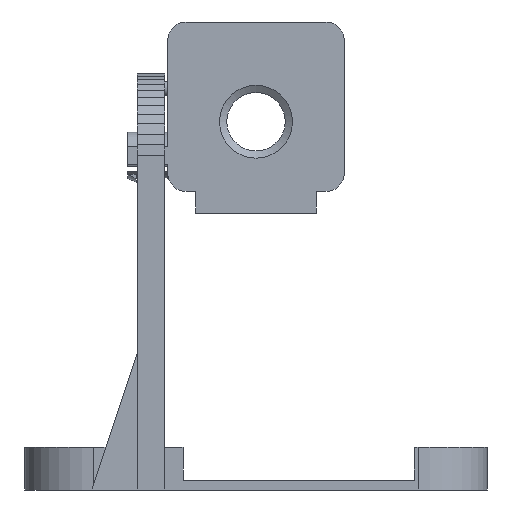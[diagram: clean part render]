
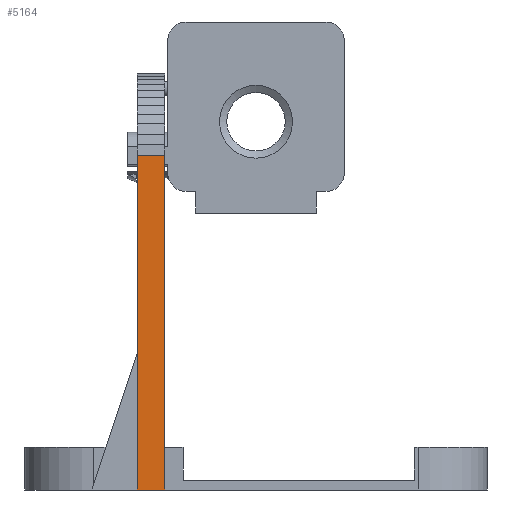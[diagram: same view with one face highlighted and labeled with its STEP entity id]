
A CAD part, left-side view. The second image highlights one B-rep face of the part: STEP entity #5164.
In plain terms, the highlighted planar face has unit normal (-1, 0, -0.016).
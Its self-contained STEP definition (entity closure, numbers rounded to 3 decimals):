
#66 = PLANE('',#67);
#67 = AXIS2_PLACEMENT_3D('',#68,#69,#70);
#68 = CARTESIAN_POINT('',(0.,0.,0.));
#69 = DIRECTION('',(0.,0.,1.));
#70 = DIRECTION('',(1.,0.,-0.));
#257 = PLANE('',#258);
#258 = AXIS2_PLACEMENT_3D('',#259,#260,#261);
#259 = CARTESIAN_POINT('',(-61.83,15.,32.564));
#260 = DIRECTION('',(0.,-1.,0.));
#261 = DIRECTION('',(1.,0.,0.));
#688 = PLANE('',#689);
#689 = AXIS2_PLACEMENT_3D('',#690,#691,#692);
#690 = CARTESIAN_POINT('',(-61.83,19.5,32.564));
#691 = DIRECTION('',(0.,-1.,0.));
#692 = DIRECTION('',(1.,0.,0.));
#785 = VERTEX_POINT('',#786);
#786 = CARTESIAN_POINT('',(-74.,19.5,0.));
#807 = EDGE_CURVE('',#785,#808,#810,.T.);
#808 = VERTEX_POINT('',#809);
#809 = CARTESIAN_POINT('',(-74.,15.,0.));
#810 = SURFACE_CURVE('',#811,(#815,#822),.PCURVE_S1.);
#811 = LINE('',#812,#813);
#812 = CARTESIAN_POINT('',(-74.,19.5,0.));
#813 = VECTOR('',#814,1.);
#814 = DIRECTION('',(0.,-1.,0.));
#815 = PCURVE('',#66,#816);
#816 = DEFINITIONAL_REPRESENTATION('',(#817),#821);
#817 = LINE('',#818,#819);
#818 = CARTESIAN_POINT('',(-74.,19.5));
#819 = VECTOR('',#820,1.);
#820 = DIRECTION('',(0.,-1.));
#821 = ( GEOMETRIC_REPRESENTATION_CONTEXT(2) 
PARAMETRIC_REPRESENTATION_CONTEXT() REPRESENTATION_CONTEXT('2D SPACE',''
  ) );
#822 = PCURVE('',#823,#828);
#823 = PLANE('',#824);
#824 = AXIS2_PLACEMENT_3D('',#825,#826,#827);
#825 = CARTESIAN_POINT('',(-74.9,19.5,55.));
#826 = DIRECTION('',(1.,0.,
    0.016));
#827 = DIRECTION('',(0.016,0.,
    -1.));
#828 = DEFINITIONAL_REPRESENTATION('',(#829),#833);
#829 = LINE('',#830,#831);
#830 = CARTESIAN_POINT('',(55.007,0.));
#831 = VECTOR('',#832,1.);
#832 = DIRECTION('',(0.,-1.));
#833 = ( GEOMETRIC_REPRESENTATION_CONTEXT(2) 
PARAMETRIC_REPRESENTATION_CONTEXT() REPRESENTATION_CONTEXT('2D SPACE',''
  ) );
#891 = VERTEX_POINT('',#892);
#892 = CARTESIAN_POINT('',(-74.9,15.,55.));
#906 = PLANE('',#907);
#907 = AXIS2_PLACEMENT_3D('',#908,#909,#910);
#908 = CARTESIAN_POINT('',(-74.785,19.5,56.762));
#909 = DIRECTION('',(0.998,0.,
    -0.065));
#910 = DIRECTION('',(-0.065,0.,
    -0.998));
#918 = EDGE_CURVE('',#891,#808,#919,.T.);
#919 = SURFACE_CURVE('',#920,(#924,#931),.PCURVE_S1.);
#920 = LINE('',#921,#922);
#921 = CARTESIAN_POINT('',(-74.9,15.,55.));
#922 = VECTOR('',#923,1.);
#923 = DIRECTION('',(0.016,0.,
    -1.));
#924 = PCURVE('',#257,#925);
#925 = DEFINITIONAL_REPRESENTATION('',(#926),#930);
#926 = LINE('',#927,#928);
#927 = CARTESIAN_POINT('',(-13.07,22.436));
#928 = VECTOR('',#929,1.);
#929 = DIRECTION('',(0.016,-1.));
#930 = ( GEOMETRIC_REPRESENTATION_CONTEXT(2) 
PARAMETRIC_REPRESENTATION_CONTEXT() REPRESENTATION_CONTEXT('2D SPACE',''
  ) );
#931 = PCURVE('',#823,#932);
#932 = DEFINITIONAL_REPRESENTATION('',(#933),#937);
#933 = LINE('',#934,#935);
#934 = CARTESIAN_POINT('',(0.,-4.5));
#935 = VECTOR('',#936,1.);
#936 = DIRECTION('',(1.,0.));
#937 = ( GEOMETRIC_REPRESENTATION_CONTEXT(2) 
PARAMETRIC_REPRESENTATION_CONTEXT() REPRESENTATION_CONTEXT('2D SPACE',''
  ) );
#3923 = VERTEX_POINT('',#3924);
#3924 = CARTESIAN_POINT('',(-74.9,19.5,55.));
#3945 = EDGE_CURVE('',#3923,#785,#3946,.T.);
#3946 = SURFACE_CURVE('',#3947,(#3951,#3958),.PCURVE_S1.);
#3947 = LINE('',#3948,#3949);
#3948 = CARTESIAN_POINT('',(-74.9,19.5,55.));
#3949 = VECTOR('',#3950,1.);
#3950 = DIRECTION('',(0.016,0.,
    -1.));
#3951 = PCURVE('',#688,#3952);
#3952 = DEFINITIONAL_REPRESENTATION('',(#3953),#3957);
#3953 = LINE('',#3954,#3955);
#3954 = CARTESIAN_POINT('',(-13.07,22.436));
#3955 = VECTOR('',#3956,1.);
#3956 = DIRECTION('',(0.016,-1.));
#3957 = ( GEOMETRIC_REPRESENTATION_CONTEXT(2) 
PARAMETRIC_REPRESENTATION_CONTEXT() REPRESENTATION_CONTEXT('2D SPACE',''
  ) );
#3958 = PCURVE('',#823,#3959);
#3959 = DEFINITIONAL_REPRESENTATION('',(#3960),#3964);
#3960 = LINE('',#3961,#3962);
#3961 = CARTESIAN_POINT('',(0.,0.));
#3962 = VECTOR('',#3963,1.);
#3963 = DIRECTION('',(1.,0.));
#3964 = ( GEOMETRIC_REPRESENTATION_CONTEXT(2) 
PARAMETRIC_REPRESENTATION_CONTEXT() REPRESENTATION_CONTEXT('2D SPACE',''
  ) );
#5164 = ADVANCED_FACE('',(#5165),#823,.F.);
#5165 = FACE_BOUND('',#5166,.F.);
#5166 = EDGE_LOOP('',(#5167,#5188,#5189,#5190));
#5167 = ORIENTED_EDGE('',*,*,#5168,.T.);
#5168 = EDGE_CURVE('',#3923,#891,#5169,.T.);
#5169 = SURFACE_CURVE('',#5170,(#5174,#5181),.PCURVE_S1.);
#5170 = LINE('',#5171,#5172);
#5171 = CARTESIAN_POINT('',(-74.9,19.5,55.));
#5172 = VECTOR('',#5173,1.);
#5173 = DIRECTION('',(0.,-1.,0.));
#5174 = PCURVE('',#823,#5175);
#5175 = DEFINITIONAL_REPRESENTATION('',(#5176),#5180);
#5176 = LINE('',#5177,#5178);
#5177 = CARTESIAN_POINT('',(0.,0.));
#5178 = VECTOR('',#5179,1.);
#5179 = DIRECTION('',(0.,-1.));
#5180 = ( GEOMETRIC_REPRESENTATION_CONTEXT(2) 
PARAMETRIC_REPRESENTATION_CONTEXT() REPRESENTATION_CONTEXT('2D SPACE',''
  ) );
#5181 = PCURVE('',#906,#5182);
#5182 = DEFINITIONAL_REPRESENTATION('',(#5183),#5187);
#5183 = LINE('',#5184,#5185);
#5184 = CARTESIAN_POINT('',(1.766,0.));
#5185 = VECTOR('',#5186,1.);
#5186 = DIRECTION('',(0.,-1.));
#5187 = ( GEOMETRIC_REPRESENTATION_CONTEXT(2) 
PARAMETRIC_REPRESENTATION_CONTEXT() REPRESENTATION_CONTEXT('2D SPACE',''
  ) );
#5188 = ORIENTED_EDGE('',*,*,#918,.T.);
#5189 = ORIENTED_EDGE('',*,*,#807,.F.);
#5190 = ORIENTED_EDGE('',*,*,#3945,.F.);
